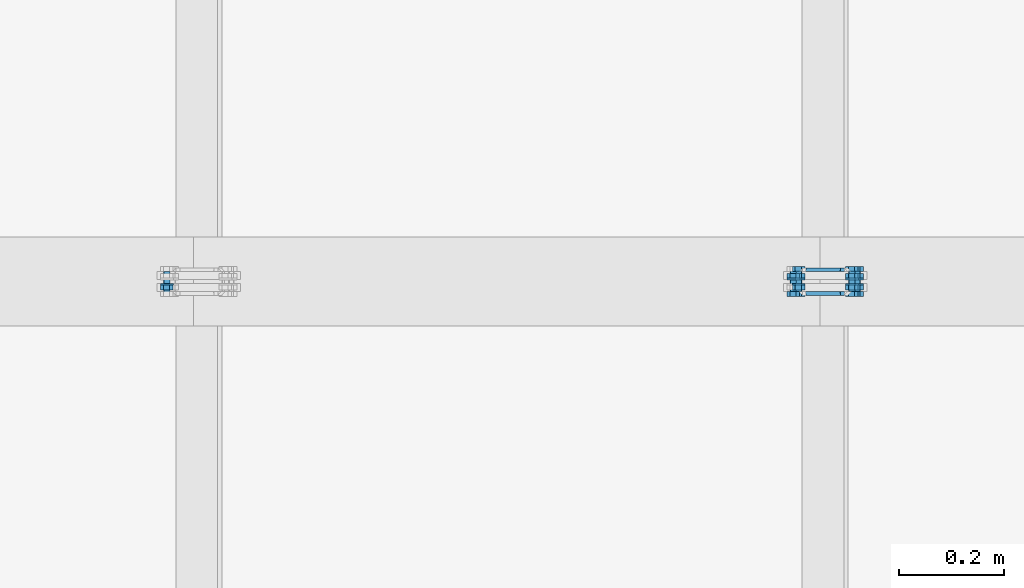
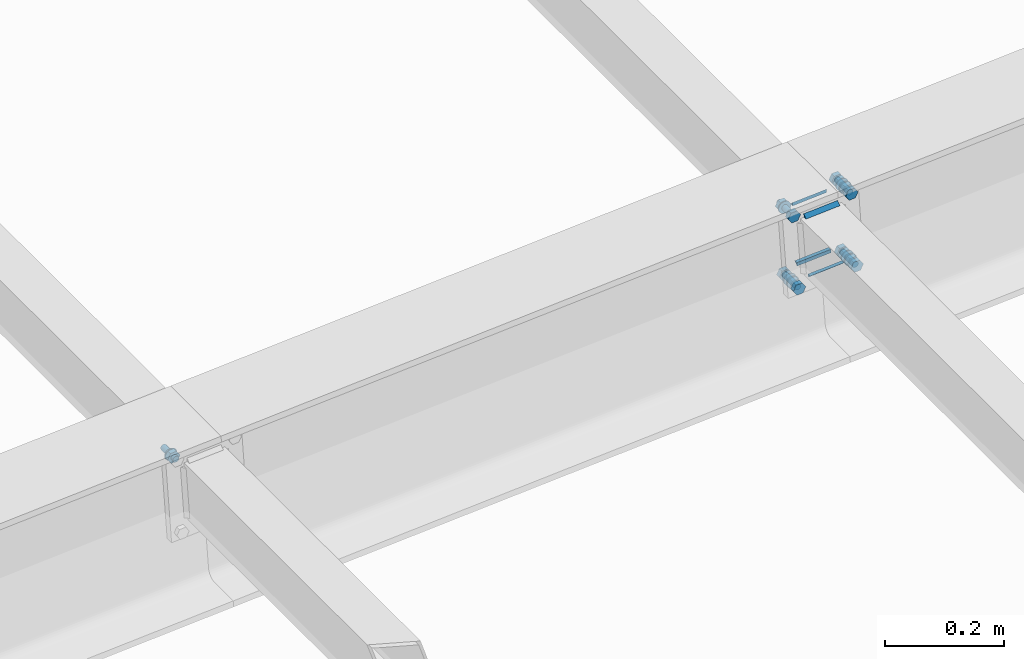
# One storey, part 60 of 72: 31 mechanical fasteners, 8 fasteners.
"""IFC4 building model written with IfcOpenShell, lengths in metres."""

from ifc_helpers import new_model, si_unit, frame, origin_with_axes, place, context, project, spatial, polyline, outline, extrude, type_object, element, save


model = new_model("IFC4")

# Units and contexts
model_context = context("Model", 3, precision=1e-05, world=origin_with_axes())
ifc_project = project(units=[si_unit("LENGTHUNIT", "METRE"), si_unit("AREAUNIT", "SQUARE_METRE"), si_unit("VOLUMEUNIT", "CUBIC_METRE"), si_unit("MASSUNIT", "GRAM", prefix="KILO"), si_unit("TIMEUNIT", "SECOND"), si_unit("PLANEANGLEUNIT", "RADIAN"), si_unit("SOLIDANGLEUNIT", "STERADIAN"), si_unit("THERMODYNAMICTEMPERATUREUNIT", "DEGREE_CELSIUS")], contexts=[model_context])

# Site, building, storey
placement_1 = place(None, origin_with_axes())
site = spatial("IfcSite", under=ifc_project, at=placement_1, Name="Italia", CompositionType="ELEMENT")
building = spatial("IfcBuilding", under=site, at=placement_1, Name="Pensilina", CompositionType="ELEMENT")
storey = spatial("IfcBuildingStorey", under=building, at=placement_1, Name="Storey 0", CompositionType="ELEMENT", Elevation=0.0)

# Mechanical fasteners
mechanical_fastener_type_1 = type_object("IfcMechanicalFastenerType", Name="Collegamento 0404_0405", PredefinedType="BOLT")
placement_2 = place(placement_1, origin_with_axes())
mechanical_fastener_1_placement = place(placement_2, origin_with_axes())
element("IfcMechanicalFastener", 1, at=mechanical_fastener_1_placement, inside=storey, type_object=mechanical_fastener_type_1, Name="Collegamento 0404_0405", NominalDiameter=0.012, context=model_context, shape_type="SweptSolid", body=[
    extrude(outline(polyline([(0.0, 0.0, 0.0), (-0.000204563, -0.00155282, 0.0), (-0.000803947, -0.00300002, 0.0), (-0.00175738, -0.00424266, 0.0), (-0.00300002, -0.00519609, 0.0), (-0.00444722, -0.00579548, 0.0), (-0.00600004, -0.00600004, 0.0), (-0.00755286, -0.00579548, 0.0), (-0.00900006, -0.00519609, 0.0), (-0.0102427, -0.00424266, 0.0), (-0.0111961, -0.00300002, 0.0), (-0.0117955, -0.00155282, 0.0), (-0.0120001, 0.0, 0.0), (-0.0117955, 0.00155282, 0.0), (-0.0111961, 0.00300002, 0.0), (-0.0102427, 0.00424266, 0.0), (-0.00900006, 0.00519609, 0.0), (-0.00755286, 0.00579548, 0.0), (-0.00600004, 0.00600004, 0.0), (-0.00444722, 0.00579548, 0.0), (-0.00300002, 0.00519609, 0.0), (-0.00175738, 0.00424266, 0.0), (-0.000803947, 0.00300002, 0.0), (-0.000204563, 0.00155282, 0.0), (0.0, 0.0, 0.0)])), frame((3.34841, 15.818, 3.93313), z_axis=(0.0, 1.0, 0.0), x_axis=(-1.0, 0.0, 0.0)), (0.0, 0.0, 1.0), 0.0410004),
])
mechanical_fastener_type_2 = type_object("IfcMechanicalFastenerType", Name="Collegamento 0404_0405", PredefinedType="BOLT")
mechanical_fastener_2_placement = place(placement_2, origin_with_axes())
element("IfcMechanicalFastener", 2, at=mechanical_fastener_2_placement, inside=storey, type_object=mechanical_fastener_type_2, Name="Collegamento 0404_0405", NominalDiameter=0.0119998, context=model_context, shape_type="SweptSolid", body=[
    extrude(outline(polyline([(0.0, 0.0, 0.0), (-0.0119729, 0.000808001, 0.0), (-0.0172596, 0.0115805, 0.0), (-0.0105736, 0.0215454, 0.0), (0.00139904, 0.0207376, 0.0), (0.00668597, 0.00996494, 0.0), (0.0, 0.0, 0.0)])), frame((3.34912, 15.8244, 3.92236), z_axis=(0.0, 1.0, 0.0), x_axis=(-1.0, 0.0, 0.0)), (0.0, 0.0, 1.0), 0.00959969),
])
mechanical_fastener_type_3 = type_object("IfcMechanicalFastenerType", Name="Collegamento 0404_0405", PredefinedType="BOLT")
mechanical_fastener_3_placement = place(placement_2, origin_with_axes())
element("IfcMechanicalFastener", 3, at=mechanical_fastener_3_placement, inside=storey, type_object=mechanical_fastener_type_3, Name="Collegamento 0404_0405", NominalDiameter=0.024, context=model_context, shape_type="SweptSolid", body=[
    extrude(outline(polyline([(0.0, 0.0, 0.0), (-0.000408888, -0.00310588, 0.0), (-0.00160789, -0.00600004, 0.0), (-0.00351477, -0.00848532, 0.0), (-0.00600004, -0.0103922, 0.0), (-0.00889421, -0.0115912, 0.0), (-0.0120001, -0.0120001, 0.0), (-0.015106, -0.0115912, 0.0), (-0.0180001, -0.0103922, 0.0), (-0.0204854, -0.00848532, 0.0), (-0.0223923, -0.00600004, 0.0), (-0.0235913, -0.00310588, 0.0), (-0.0240002, 0.0, 0.0), (-0.0235913, 0.00310588, 0.0), (-0.0223923, 0.00600004, 0.0), (-0.0204854, 0.00848532, 0.0), (-0.0180001, 0.0103922, 0.0), (-0.015106, 0.0115912, 0.0), (-0.0120001, 0.0120001, 0.0), (-0.00889421, 0.0115912, 0.0), (-0.00600004, 0.0103922, 0.0), (-0.00351477, 0.00848532, 0.0), (-0.00160789, 0.00600004, 0.0), (-0.000408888, 0.00310588, 0.0), (0.0, 0.0, 0.0)])), frame((3.34241, 15.834, 3.93313), z_axis=(0.0, 1.0, 0.0), x_axis=(-1.0, 0.0, 0.0)), (0.0, 0.0, 1.0), 0.00199986),
])

# Fasteners
fastener_type_1 = type_object("IfcFastenerType", Name="Collegamento 0504_0503", PredefinedType="WELD")
fastener_1_placement = place(placement_2, origin_with_axes())
element("IfcFastener", 4, at=fastener_1_placement, inside=storey, type_object=fastener_type_1, Name="Collegamento 0504_0503", context=model_context, shape_type="SweptSolid", body=[
    extrude(outline(polyline([(0.0, 0.0, 0.0), (0.00717354, -0.00695872, 0.0), (0.0, -0.00695872, 0.0), (0.0, 0.0, 0.0)])), frame((4.64108, 15.8211, 4.01231), z_axis=(-0.997731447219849, 0.0, -0.06731953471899), x_axis=(0.0, -1.0, 0.0)), (0.0, 0.0, 1.0), 0.0661003),
])
fastener_type_2 = type_object("IfcFastenerType", Name="Collegamento 0504_0503", PredefinedType="WELD")
fastener_2_placement = place(placement_2, origin_with_axes())
element("IfcFastener", 5, at=fastener_2_placement, inside=storey, type_object=fastener_type_2, Name="Collegamento 0504_0503", context=model_context, shape_type="SweptSolid", body=[
    extrude(outline(polyline([(0.0, 0.0, 0.0), (-0.00717354, 0.00695825, 0.0), (0.0, 0.00695825, 0.0), (0.0, 0.0, 0.0)])), frame((4.58414, 15.8211, 3.87435), z_axis=(0.99773120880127, 0.0, 0.067323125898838), x_axis=(0.0, 1.0, 0.0)), (0.0, 0.0, 1.0), 0.0661004),
])
fastener_type_3 = type_object("IfcFastenerType", Name="Collegamento 0504_0503", PredefinedType="WELD")
fastener_3_placement = place(placement_2, origin_with_axes())
element("IfcFastener", 6, at=fastener_3_placement, inside=storey, type_object=fastener_type_3, Name="Collegamento 0504_0503", context=model_context, shape_type="SweptSolid", body=[
    extrude(outline(polyline([(0.0, 0.0, 0.0), (0.00717354, -0.00695872, 0.0), (0.0, -0.00695872, 0.0), (0.0, 0.0, 0.0)])), frame((4.64108, 15.8211, 4.01231), z_axis=(-0.997731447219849, 0.0, -0.06731953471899), x_axis=(0.0, -1.0, 0.0)), (0.0, 0.0, 1.0), 0.0661003),
])
fastener_type_4 = type_object("IfcFastenerType", Name="Collegamento 0504_0503", PredefinedType="WELD")
fastener_4_placement = place(placement_2, origin_with_axes())
element("IfcFastener", 7, at=fastener_4_placement, inside=storey, type_object=fastener_type_4, Name="Collegamento 0504_0503", context=model_context, shape_type="SweptSolid", body=[
    extrude(outline(polyline([(0.0, 0.0, 0.0), (-0.00717354, 0.00695825, 0.0), (0.0, 0.00695825, 0.0), (0.0, 0.0, 0.0)])), frame((4.58414, 15.8211, 3.87435), z_axis=(0.99773120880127, 0.0, 0.067323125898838), x_axis=(0.0, 1.0, 0.0)), (0.0, 0.0, 1.0), 0.0661004),
])

# Mechanical fasteners
mechanical_fastener_type_4 = type_object("IfcMechanicalFastenerType", Name="Collegamento 0504_0503", PredefinedType="BOLT")
mechanical_fastener_4_placement = place(placement_2, origin_with_axes())
element("IfcMechanicalFastener", 8, at=mechanical_fastener_4_placement, inside=storey, type_object=mechanical_fastener_type_4, Name="Collegamento 0504_0503", NominalDiameter=0.0119998, context=model_context, shape_type="SweptSolid", body=[
    extrude(outline(polyline([(0.0, 0.0, 0.0), (-0.0119729, -0.000808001, 0.0), (-0.0186586, 0.00915694, 0.0), (-0.0133719, 0.0199296, 0.0), (-0.00139904, 0.0207374, 0.0), (0.00528669, 0.0107725, 0.0), (0.0, 0.0, 0.0)])), frame((4.56854, 15.821, 3.85377), z_axis=(0.0, -1.0, 0.0), x_axis=(1.0, 0.0, 0.0)), (0.0, 0.0, 1.0), 0.00959969),
])
mechanical_fastener_type_5 = type_object("IfcMechanicalFastenerType", Name="Collegamento 0504_0503", PredefinedType="BOLT")
mechanical_fastener_5_placement = place(placement_2, origin_with_axes())
element("IfcMechanicalFastener", 9, at=mechanical_fastener_5_placement, inside=storey, type_object=mechanical_fastener_type_5, Name="Collegamento 0504_0503", NominalDiameter=0.012, context=model_context, shape_type="SweptSolid", body=[
    extrude(outline(polyline([(0.0, 0.0, 0.0), (-0.000204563, -0.00155282, 0.0), (-0.000803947, -0.00300002, 0.0), (-0.00175762, -0.00424266, 0.0), (-0.00300026, -0.00519609, 0.0), (-0.00444698, -0.00579548, 0.0), (-0.00600004, -0.00600004, 0.0), (-0.0075531, -0.00579548, 0.0), (-0.00899982, -0.00519609, 0.0), (-0.0102425, -0.00424266, 0.0), (-0.0111961, -0.00300002, 0.0), (-0.0117955, -0.00155282, 0.0), (-0.0120001, 0.0, 0.0), (-0.0117955, 0.00155282, 0.0), (-0.0111961, 0.00300002, 0.0), (-0.0102425, 0.00424266, 0.0), (-0.00899982, 0.00519609, 0.0), (-0.0075531, 0.00579548, 0.0), (-0.00600004, 0.00600004, 0.0), (-0.00444698, 0.00579548, 0.0), (-0.00300026, 0.00519609, 0.0), (-0.00175762, 0.00424266, 0.0), (-0.000803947, 0.00300002, 0.0), (-0.000204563, 0.00155282, 0.0), (0.0, 0.0, 0.0)])), frame((4.56785, 15.862, 3.86373), z_axis=(0.0, -1.0, 0.0), x_axis=(1.0, 0.0, 0.0)), (0.0, 0.0, 1.0), 0.0410004),
])
mechanical_fastener_type_6 = type_object("IfcMechanicalFastenerType", Name="Collegamento 0504_0503", PredefinedType="BOLT")
mechanical_fastener_6_placement = place(placement_2, origin_with_axes())
element("IfcMechanicalFastener", 10, at=mechanical_fastener_6_placement, inside=storey, type_object=mechanical_fastener_type_6, Name="Collegamento 0504_0503", NominalDiameter=0.0119998, context=model_context, shape_type="SweptSolid", body=[
    extrude(outline(polyline([(0.0, 0.0, 0.0), (-0.0119729, -0.000808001, 0.0), (-0.0186586, 0.00915694, 0.0), (-0.0133719, 0.0199296, 0.0), (-0.00139904, 0.0207374, 0.0), (0.00528669, 0.0107725, 0.0), (0.0, 0.0, 0.0)])), frame((4.56854, 15.8556, 3.85377), z_axis=(0.0, -1.0, 0.0), x_axis=(1.0, 0.0, 0.0)), (0.0, 0.0, 1.0), 0.00959969),
])
mechanical_fastener_type_7 = type_object("IfcMechanicalFastenerType", Name="Collegamento 0504_0503", PredefinedType="BOLT")
mechanical_fastener_7_placement = place(placement_2, origin_with_axes())
element("IfcMechanicalFastener", 11, at=mechanical_fastener_7_placement, inside=storey, type_object=mechanical_fastener_type_7, Name="Collegamento 0504_0503", NominalDiameter=0.024, context=model_context, shape_type="SweptSolid", body=[
    extrude(outline(polyline([(0.0, 0.0, 0.0), (-0.000409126, -0.00310588, 0.0), (-0.00160789, -0.00600004, 0.0), (-0.00351477, -0.00848532, 0.0), (-0.00600004, -0.0103922, 0.0), (-0.00889444, -0.0115912, 0.0), (-0.0120001, -0.0120001, 0.0), (-0.0151057, -0.0115912, 0.0), (-0.0180001, -0.0103922, 0.0), (-0.0204854, -0.00848532, 0.0), (-0.0223923, -0.00600004, 0.0), (-0.023591, -0.00310588, 0.0), (-0.0240002, 0.0, 0.0), (-0.023591, 0.00310588, 0.0), (-0.0223923, 0.00600004, 0.0), (-0.0204854, 0.00848532, 0.0), (-0.0180001, 0.0103922, 0.0), (-0.0151057, 0.0115912, 0.0), (-0.0120001, 0.0120001, 0.0), (-0.00889444, 0.0115912, 0.0), (-0.00600004, 0.0103922, 0.0), (-0.00351477, 0.00848532, 0.0), (-0.00160789, 0.00600004, 0.0), (-0.000409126, 0.00310588, 0.0), (0.0, 0.0, 0.0)])), frame((4.57385, 15.846, 3.86373), z_axis=(0.0, -1.0, 0.0), x_axis=(1.0, 0.0, 0.0)), (0.0, 0.0, 1.0), 0.00199986),
])
mechanical_fastener_type_8 = type_object("IfcMechanicalFastenerType", Name="Collegamento 0504_0503", PredefinedType="BOLT")
mechanical_fastener_8_placement = place(placement_2, origin_with_axes())
element("IfcMechanicalFastener", 12, at=mechanical_fastener_8_placement, inside=storey, type_object=mechanical_fastener_type_8, Name="Collegamento 0504_0503", NominalDiameter=0.0119998, context=model_context, shape_type="SweptSolid", body=[
    extrude(outline(polyline([(0.0, 0.0, 0.0), (-0.0119729, -0.000807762, 0.0), (-0.0186586, 0.00915718, 0.0), (-0.0133719, 0.0199296, 0.0), (-0.00139904, 0.0207376, 0.0), (0.00528669, 0.0107727, 0.0), (0.0, 0.0, 0.0)])), frame((4.68028, 15.821, 3.8613), z_axis=(0.0, -1.0, 0.0), x_axis=(1.0, 0.0, 0.0)), (0.0, 0.0, 1.0), 0.00959969),
])
mechanical_fastener_type_9 = type_object("IfcMechanicalFastenerType", Name="Collegamento 0504_0503", PredefinedType="BOLT")
mechanical_fastener_9_placement = place(placement_2, origin_with_axes())
element("IfcMechanicalFastener", 13, at=mechanical_fastener_9_placement, inside=storey, type_object=mechanical_fastener_type_9, Name="Collegamento 0504_0503", NominalDiameter=0.012, context=model_context, shape_type="SweptSolid", body=[
    extrude(outline(polyline([(0.0, 0.0, 0.0), (-0.000204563, -0.00155282, 0.0), (-0.000803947, -0.00300002, 0.0), (-0.00175762, -0.00424266, 0.0), (-0.00300026, -0.00519609, 0.0), (-0.00444698, -0.00579548, 0.0), (-0.00600004, -0.00600004, 0.0), (-0.0075531, -0.00579548, 0.0), (-0.00899982, -0.00519609, 0.0), (-0.0102425, -0.00424266, 0.0), (-0.0111961, -0.00300002, 0.0), (-0.0117955, -0.00155282, 0.0), (-0.0120001, 0.0, 0.0), (-0.0117955, 0.00155282, 0.0), (-0.0111961, 0.00300002, 0.0), (-0.0102425, 0.00424266, 0.0), (-0.00899982, 0.00519609, 0.0), (-0.0075531, 0.00579548, 0.0), (-0.00600004, 0.00600004, 0.0), (-0.00444698, 0.00579548, 0.0), (-0.00300026, 0.00519609, 0.0), (-0.00175762, 0.00424266, 0.0), (-0.000803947, 0.00300002, 0.0), (-0.000204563, 0.00155282, 0.0), (0.0, 0.0, 0.0)])), frame((4.6796, 15.862, 3.87127), z_axis=(0.0, -1.0, 0.0), x_axis=(1.0, 0.0, 0.0)), (0.0, 0.0, 1.0), 0.0410004),
])
mechanical_fastener_type_10 = type_object("IfcMechanicalFastenerType", Name="Collegamento 0504_0503", PredefinedType="BOLT")
mechanical_fastener_10_placement = place(placement_2, origin_with_axes())
element("IfcMechanicalFastener", 14, at=mechanical_fastener_10_placement, inside=storey, type_object=mechanical_fastener_type_10, Name="Collegamento 0504_0503", NominalDiameter=0.0119998, context=model_context, shape_type="SweptSolid", body=[
    extrude(outline(polyline([(0.0, 0.0, 0.0), (-0.0119729, -0.000807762, 0.0), (-0.0186586, 0.00915718, 0.0), (-0.0133719, 0.0199296, 0.0), (-0.00139904, 0.0207376, 0.0), (0.00528669, 0.0107727, 0.0), (0.0, 0.0, 0.0)])), frame((4.68028, 15.8556, 3.8613), z_axis=(0.0, -1.0, 0.0), x_axis=(1.0, 0.0, 0.0)), (0.0, 0.0, 1.0), 0.00959969),
])
mechanical_fastener_type_11 = type_object("IfcMechanicalFastenerType", Name="Collegamento 0504_0503", PredefinedType="BOLT")
mechanical_fastener_11_placement = place(placement_2, origin_with_axes())
element("IfcMechanicalFastener", 15, at=mechanical_fastener_11_placement, inside=storey, type_object=mechanical_fastener_type_11, Name="Collegamento 0504_0503", NominalDiameter=0.024, context=model_context, shape_type="SweptSolid", body=[
    extrude(outline(polyline([(0.0, 0.0, 0.0), (-0.000409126, -0.00310588, 0.0), (-0.00160789, -0.00600004, 0.0), (-0.00351477, -0.00848532, 0.0), (-0.00600004, -0.0103922, 0.0), (-0.00889444, -0.0115912, 0.0), (-0.0120001, -0.0120001, 0.0), (-0.0151057, -0.0115912, 0.0), (-0.0180001, -0.0103922, 0.0), (-0.0204854, -0.00848532, 0.0), (-0.0223923, -0.00600004, 0.0), (-0.023591, -0.00310588, 0.0), (-0.0240002, 0.0, 0.0), (-0.023591, 0.00310588, 0.0), (-0.0223923, 0.00600004, 0.0), (-0.0204854, 0.00848532, 0.0), (-0.0180001, 0.0103922, 0.0), (-0.0151057, 0.0115912, 0.0), (-0.0120001, 0.0120001, 0.0), (-0.00889444, 0.0115912, 0.0), (-0.00600004, 0.0103922, 0.0), (-0.00351477, 0.00848532, 0.0), (-0.00160789, 0.00600004, 0.0), (-0.000409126, 0.00310588, 0.0), (0.0, 0.0, 0.0)])), frame((4.6856, 15.846, 3.87127), z_axis=(0.0, -1.0, 0.0), x_axis=(1.0, 0.0, 0.0)), (0.0, 0.0, 1.0), 0.00199986),
])
mechanical_fastener_type_12 = type_object("IfcMechanicalFastenerType", Name="Collegamento 0504_0503", PredefinedType="BOLT")
mechanical_fastener_12_placement = place(placement_2, origin_with_axes())
element("IfcMechanicalFastener", 16, at=mechanical_fastener_12_placement, inside=storey, type_object=mechanical_fastener_type_12, Name="Collegamento 0504_0503", NominalDiameter=0.012, context=model_context, shape_type="SweptSolid", body=[
    extrude(outline(polyline([(0.0, 0.0, 0.0), (-0.0119729, -0.000807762, 0.0), (-0.0186586, 0.00915718, 0.0), (-0.0133719, 0.0199299, 0.0), (-0.00139904, 0.0207376, 0.0), (0.00528669, 0.0107727, 0.0), (0.0, 0.0, 0.0)])), frame((4.5583, 15.821, 4.00542), z_axis=(0.0, -1.0, 0.0), x_axis=(1.0, 0.0, 0.0)), (0.0, 0.0, 1.0), 0.00959969),
])
mechanical_fastener_type_13 = type_object("IfcMechanicalFastenerType", Name="Collegamento 0504_0503", PredefinedType="BOLT")
mechanical_fastener_13_placement = place(placement_2, origin_with_axes())
element("IfcMechanicalFastener", 17, at=mechanical_fastener_13_placement, inside=storey, type_object=mechanical_fastener_type_13, Name="Collegamento 0504_0503", NominalDiameter=0.012, context=model_context, shape_type="SweptSolid", body=[
    extrude(outline(polyline([(0.0, 0.0, 0.0), (-0.000204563, -0.00155306, 0.0), (-0.000803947, -0.00299978, 0.0), (-0.00175762, -0.00424242, 0.0), (-0.00300026, -0.00519609, 0.0), (-0.00444698, -0.00579548, 0.0), (-0.00600004, -0.00600004, 0.0), (-0.0075531, -0.00579548, 0.0), (-0.00899982, -0.00519609, 0.0), (-0.0102425, -0.00424242, 0.0), (-0.0111961, -0.00299978, 0.0), (-0.0117955, -0.00155306, 0.0), (-0.0120001, 0.0, 0.0), (-0.0117955, 0.00155306, 0.0), (-0.0111961, 0.00299978, 0.0), (-0.0102425, 0.00424242, 0.0), (-0.00899982, 0.00519609, 0.0), (-0.0075531, 0.00579548, 0.0), (-0.00600004, 0.00600004, 0.0), (-0.00444698, 0.00579548, 0.0), (-0.00300026, 0.00519609, 0.0), (-0.00175762, 0.00424242, 0.0), (-0.000803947, 0.00299978, 0.0), (-0.000204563, 0.00155306, 0.0), (0.0, 0.0, 0.0)])), frame((4.55762, 15.862, 4.01539), z_axis=(0.0, -1.0, 0.0), x_axis=(1.0, 0.0, 0.0)), (0.0, 0.0, 1.0), 0.0410004),
])
mechanical_fastener_type_14 = type_object("IfcMechanicalFastenerType", Name="Collegamento 0504_0503", PredefinedType="BOLT")
mechanical_fastener_14_placement = place(placement_2, origin_with_axes())
element("IfcMechanicalFastener", 18, at=mechanical_fastener_14_placement, inside=storey, type_object=mechanical_fastener_type_14, Name="Collegamento 0504_0503", NominalDiameter=0.012, context=model_context, shape_type="SweptSolid", body=[
    extrude(outline(polyline([(0.0, 0.0, 0.0), (-0.0119729, -0.000807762, 0.0), (-0.0186586, 0.00915718, 0.0), (-0.0133719, 0.0199299, 0.0), (-0.00139904, 0.0207376, 0.0), (0.00528669, 0.0107727, 0.0), (0.0, 0.0, 0.0)])), frame((4.5583, 15.8556, 4.00542), z_axis=(0.0, -1.0, 0.0), x_axis=(1.0, 0.0, 0.0)), (0.0, 0.0, 1.0), 0.00959969),
])
mechanical_fastener_type_15 = type_object("IfcMechanicalFastenerType", Name="Collegamento 0504_0503", PredefinedType="BOLT")
mechanical_fastener_15_placement = place(placement_2, origin_with_axes())
element("IfcMechanicalFastener", 19, at=mechanical_fastener_15_placement, inside=storey, type_object=mechanical_fastener_type_15, Name="Collegamento 0504_0503", NominalDiameter=0.024, context=model_context, shape_type="SweptSolid", body=[
    extrude(outline(polyline([(0.0, 0.0, 0.0), (-0.000409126, -0.00310564, 0.0), (-0.00160789, -0.00600004, 0.0), (-0.00351477, -0.00848532, 0.0), (-0.00600004, -0.0103922, 0.0), (-0.00889444, -0.011591, 0.0), (-0.0120001, -0.0120001, 0.0), (-0.0151057, -0.011591, 0.0), (-0.0180001, -0.0103922, 0.0), (-0.0204854, -0.00848532, 0.0), (-0.0223923, -0.00600004, 0.0), (-0.023591, -0.00310564, 0.0), (-0.0240002, 0.0, 0.0), (-0.023591, 0.00310564, 0.0), (-0.0223923, 0.00600004, 0.0), (-0.0204854, 0.00848532, 0.0), (-0.0180001, 0.0103922, 0.0), (-0.0151057, 0.011591, 0.0), (-0.0120001, 0.0120001, 0.0), (-0.00889444, 0.011591, 0.0), (-0.00600004, 0.0103922, 0.0), (-0.00351477, 0.00848532, 0.0), (-0.00160789, 0.00600004, 0.0), (-0.000409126, 0.00310564, 0.0), (0.0, 0.0, 0.0)])), frame((4.56362, 15.846, 4.01539), z_axis=(0.0, -1.0, 0.0), x_axis=(1.0, 0.0, 0.0)), (0.0, 0.0, 1.0), 0.00199986),
])
mechanical_fastener_type_16 = type_object("IfcMechanicalFastenerType", Name="Collegamento 0504_0503", PredefinedType="BOLT")
mechanical_fastener_16_placement = place(placement_2, origin_with_axes())
element("IfcMechanicalFastener", 20, at=mechanical_fastener_16_placement, inside=storey, type_object=mechanical_fastener_type_16, Name="Collegamento 0504_0503", NominalDiameter=0.012, context=model_context, shape_type="SweptSolid", body=[
    extrude(outline(polyline([(0.0, 0.0, 0.0), (-0.0119729, -0.000807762, 0.0), (-0.0186586, 0.00915718, 0.0), (-0.0133719, 0.0199299, 0.0), (-0.00139904, 0.0207376, 0.0), (0.00528669, 0.0107727, 0.0), (0.0, 0.0, 0.0)])), frame((4.67005, 15.821, 4.01296), z_axis=(0.0, -1.0, 0.0), x_axis=(1.0, 0.0, 0.0)), (0.0, 0.0, 1.0), 0.00959969),
])
mechanical_fastener_type_17 = type_object("IfcMechanicalFastenerType", Name="Collegamento 0504_0503", PredefinedType="BOLT")
mechanical_fastener_17_placement = place(placement_2, origin_with_axes())
element("IfcMechanicalFastener", 21, at=mechanical_fastener_17_placement, inside=storey, type_object=mechanical_fastener_type_17, Name="Collegamento 0504_0503", NominalDiameter=0.012, context=model_context, shape_type="SweptSolid", body=[
    extrude(outline(polyline([(0.0, 0.0, 0.0), (-0.000204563, -0.00155306, 0.0), (-0.000803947, -0.00299978, 0.0), (-0.00175762, -0.00424242, 0.0), (-0.00300026, -0.00519609, 0.0), (-0.00444698, -0.00579548, 0.0), (-0.00600004, -0.00600004, 0.0), (-0.0075531, -0.00579548, 0.0), (-0.00899982, -0.00519609, 0.0), (-0.0102425, -0.00424242, 0.0), (-0.0111961, -0.00299978, 0.0), (-0.0117955, -0.00155306, 0.0), (-0.0120001, 0.0, 0.0), (-0.0117955, 0.00155306, 0.0), (-0.0111961, 0.00299978, 0.0), (-0.0102425, 0.00424242, 0.0), (-0.00899982, 0.00519609, 0.0), (-0.0075531, 0.00579548, 0.0), (-0.00600004, 0.00600004, 0.0), (-0.00444698, 0.00579548, 0.0), (-0.00300026, 0.00519609, 0.0), (-0.00175762, 0.00424242, 0.0), (-0.000803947, 0.00299978, 0.0), (-0.000204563, 0.00155306, 0.0), (0.0, 0.0, 0.0)])), frame((4.66936, 15.862, 4.02292), z_axis=(0.0, -1.0, 0.0), x_axis=(1.0, 0.0, 0.0)), (0.0, 0.0, 1.0), 0.0410004),
])
mechanical_fastener_type_18 = type_object("IfcMechanicalFastenerType", Name="Collegamento 0504_0503", PredefinedType="BOLT")
mechanical_fastener_18_placement = place(placement_2, origin_with_axes())
element("IfcMechanicalFastener", 22, at=mechanical_fastener_18_placement, inside=storey, type_object=mechanical_fastener_type_18, Name="Collegamento 0504_0503", NominalDiameter=0.012, context=model_context, shape_type="SweptSolid", body=[
    extrude(outline(polyline([(0.0, 0.0, 0.0), (-0.0119729, -0.000807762, 0.0), (-0.0186586, 0.00915718, 0.0), (-0.0133719, 0.0199299, 0.0), (-0.00139904, 0.0207376, 0.0), (0.00528669, 0.0107727, 0.0), (0.0, 0.0, 0.0)])), frame((4.67005, 15.8556, 4.01296), z_axis=(0.0, -1.0, 0.0), x_axis=(1.0, 0.0, 0.0)), (0.0, 0.0, 1.0), 0.00959969),
])
mechanical_fastener_type_19 = type_object("IfcMechanicalFastenerType", Name="Collegamento 0504_0503", PredefinedType="BOLT")
mechanical_fastener_19_placement = place(placement_2, origin_with_axes())
element("IfcMechanicalFastener", 23, at=mechanical_fastener_19_placement, inside=storey, type_object=mechanical_fastener_type_19, Name="Collegamento 0504_0503", NominalDiameter=0.024, context=model_context, shape_type="SweptSolid", body=[
    extrude(outline(polyline([(0.0, 0.0, 0.0), (-0.000409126, -0.00310564, 0.0), (-0.00160789, -0.00600004, 0.0), (-0.00351477, -0.00848532, 0.0), (-0.00600004, -0.0103922, 0.0), (-0.00889444, -0.011591, 0.0), (-0.0120001, -0.0120001, 0.0), (-0.0151057, -0.011591, 0.0), (-0.0180001, -0.0103922, 0.0), (-0.0204854, -0.00848532, 0.0), (-0.0223923, -0.00600004, 0.0), (-0.023591, -0.00310564, 0.0), (-0.0240002, 0.0, 0.0), (-0.023591, 0.00310564, 0.0), (-0.0223923, 0.00600004, 0.0), (-0.0204854, 0.00848532, 0.0), (-0.0180001, 0.0103922, 0.0), (-0.0151057, 0.011591, 0.0), (-0.0120001, 0.0120001, 0.0), (-0.00889444, 0.011591, 0.0), (-0.00600004, 0.0103922, 0.0), (-0.00351477, 0.00848532, 0.0), (-0.00160789, 0.00600004, 0.0), (-0.000409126, 0.00310564, 0.0), (0.0, 0.0, 0.0)])), frame((4.67536, 15.846, 4.02292), z_axis=(0.0, -1.0, 0.0), x_axis=(1.0, 0.0, 0.0)), (0.0, 0.0, 1.0), 0.00199986),
])

# Fasteners
fastener_type_5 = type_object("IfcFastenerType", Name="Collegamento 0504_0505", PredefinedType="WELD")
fastener_5_placement = place(placement_2, origin_with_axes())
element("IfcFastener", 24, at=fastener_5_placement, inside=storey, type_object=fastener_type_5, Name="Collegamento 0504_0505", context=model_context, shape_type="SweptSolid", body=[
    extrude(outline(polyline([(0.0, 0.0, 0.0), (0.00717354, -0.00695825, 0.0), (0.0, -0.00695825, 0.0), (0.0, 0.0, 0.0)])), frame((4.57513, 15.8589, 4.00786), z_axis=(0.997731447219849, 0.0, 0.06731953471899), x_axis=(0.0, 1.0, 0.0)), (0.0, 0.0, 1.0), 0.0661003),
])
fastener_type_6 = type_object("IfcFastenerType", Name="Collegamento 0504_0505", PredefinedType="WELD")
fastener_6_placement = place(placement_2, origin_with_axes())
element("IfcFastener", 25, at=fastener_6_placement, inside=storey, type_object=fastener_type_6, Name="Collegamento 0504_0505", context=model_context, shape_type="SweptSolid", body=[
    extrude(outline(polyline([(0.0, 0.0, 0.0), (-0.00717354, 0.00695848, 0.0), (0.0, 0.00695848, 0.0), (0.0, 0.0, 0.0)])), frame((4.65009, 15.8589, 3.8788), z_axis=(-0.997731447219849, 0.0, -0.06731953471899), x_axis=(0.0, -1.0, 0.0)), (0.0, 0.0, 1.0), 0.0661003),
])
fastener_type_7 = type_object("IfcFastenerType", Name="Collegamento 0504_0505", PredefinedType="WELD")
fastener_7_placement = place(placement_2, origin_with_axes())
element("IfcFastener", 26, at=fastener_7_placement, inside=storey, type_object=fastener_type_7, Name="Collegamento 0504_0505", context=model_context, shape_type="SweptSolid", body=[
    extrude(outline(polyline([(0.0, 0.0, 0.0), (0.00717354, -0.00695825, 0.0), (0.0, -0.00695825, 0.0), (0.0, 0.0, 0.0)])), frame((4.57513, 15.8589, 4.00786), z_axis=(0.997731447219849, 0.0, 0.06731953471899), x_axis=(0.0, 1.0, 0.0)), (0.0, 0.0, 1.0), 0.0661003),
])
fastener_type_8 = type_object("IfcFastenerType", Name="Collegamento 0504_0505", PredefinedType="WELD")
fastener_8_placement = place(placement_2, origin_with_axes())
element("IfcFastener", 27, at=fastener_8_placement, inside=storey, type_object=fastener_type_8, Name="Collegamento 0504_0505", context=model_context, shape_type="SweptSolid", body=[
    extrude(outline(polyline([(0.0, 0.0, 0.0), (-0.00717354, 0.00695848, 0.0), (0.0, 0.00695848, 0.0), (0.0, 0.0, 0.0)])), frame((4.65009, 15.8589, 3.8788), z_axis=(-0.997731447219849, 0.0, -0.06731953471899), x_axis=(0.0, -1.0, 0.0)), (0.0, 0.0, 1.0), 0.0661003),
])

# Mechanical fasteners
mechanical_fastener_type_20 = type_object("IfcMechanicalFastenerType", Name="Collegamento 0504_0505", PredefinedType="BOLT")
mechanical_fastener_20_placement = place(placement_2, origin_with_axes())
element("IfcMechanicalFastener", 28, at=mechanical_fastener_20_placement, inside=storey, type_object=mechanical_fastener_type_20, Name="Collegamento 0504_0505", NominalDiameter=0.0119998, context=model_context, shape_type="SweptSolid", body=[
    extrude(outline(polyline([(0.0, 0.0, 0.0), (-0.0119729, 0.000807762, 0.0), (-0.0172596, 0.0115805, 0.0), (-0.0105739, 0.0215454, 0.0), (0.00139904, 0.0207374, 0.0), (0.00668573, 0.00996494, 0.0), (0.0, 0.0, 0.0)])), frame((4.66831, 15.859, 3.8605), z_axis=(0.0, 1.0, 0.0), x_axis=(-1.0, 0.0, 0.0)), (0.0, 0.0, 1.0), 0.00959969),
])
mechanical_fastener_type_21 = type_object("IfcMechanicalFastenerType", Name="Collegamento 0504_0505", PredefinedType="BOLT")
mechanical_fastener_21_placement = place(placement_2, origin_with_axes())
element("IfcMechanicalFastener", 29, at=mechanical_fastener_21_placement, inside=storey, type_object=mechanical_fastener_type_21, Name="Collegamento 0504_0505", NominalDiameter=0.012, context=model_context, shape_type="SweptSolid", body=[
    extrude(outline(polyline([(0.0, 0.0, 0.0), (-0.000204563, -0.00155282, 0.0), (-0.000803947, -0.00300002, 0.0), (-0.00175762, -0.00424266, 0.0), (-0.00300026, -0.00519609, 0.0), (-0.00444698, -0.00579548, 0.0), (-0.00600004, -0.00600004, 0.0), (-0.0075531, -0.00579548, 0.0), (-0.00899982, -0.00519609, 0.0), (-0.0102425, -0.00424266, 0.0), (-0.0111961, -0.00300002, 0.0), (-0.0117955, -0.00155282, 0.0), (-0.0120001, 0.0, 0.0), (-0.0117955, 0.00155282, 0.0), (-0.0111961, 0.00300002, 0.0), (-0.0102425, 0.00424266, 0.0), (-0.00899982, 0.00519609, 0.0), (-0.0075531, 0.00579548, 0.0), (-0.00600004, 0.00600004, 0.0), (-0.00444698, 0.00579548, 0.0), (-0.00300026, 0.00519609, 0.0), (-0.00175762, 0.00424266, 0.0), (-0.000803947, 0.00300002, 0.0), (-0.000204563, 0.00155282, 0.0), (0.0, 0.0, 0.0)])), frame((4.6676, 15.818, 3.87127), z_axis=(0.0, 1.0, 0.0), x_axis=(-1.0, 0.0, 0.0)), (0.0, 0.0, 1.0), 0.0410004),
])
mechanical_fastener_type_22 = type_object("IfcMechanicalFastenerType", Name="Collegamento 0504_0505", PredefinedType="BOLT")
mechanical_fastener_22_placement = place(placement_2, origin_with_axes())
element("IfcMechanicalFastener", 30, at=mechanical_fastener_22_placement, inside=storey, type_object=mechanical_fastener_type_22, Name="Collegamento 0504_0505", NominalDiameter=0.0119998, context=model_context, shape_type="SweptSolid", body=[
    extrude(outline(polyline([(0.0, 0.0, 0.0), (-0.0119729, 0.000807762, 0.0), (-0.0172596, 0.0115805, 0.0), (-0.0105739, 0.0215454, 0.0), (0.00139904, 0.0207374, 0.0), (0.00668573, 0.00996494, 0.0), (0.0, 0.0, 0.0)])), frame((4.66831, 15.8244, 3.8605), z_axis=(0.0, 1.0, 0.0), x_axis=(-1.0, 0.0, 0.0)), (0.0, 0.0, 1.0), 0.00959969),
])
mechanical_fastener_type_23 = type_object("IfcMechanicalFastenerType", Name="Collegamento 0504_0505", PredefinedType="BOLT")
mechanical_fastener_23_placement = place(placement_2, origin_with_axes())
element("IfcMechanicalFastener", 31, at=mechanical_fastener_23_placement, inside=storey, type_object=mechanical_fastener_type_23, Name="Collegamento 0504_0505", NominalDiameter=0.024, context=model_context, shape_type="SweptSolid", body=[
    extrude(outline(polyline([(0.0, 0.0, 0.0), (-0.000409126, -0.00310588, 0.0), (-0.00160789, -0.00600004, 0.0), (-0.00351477, -0.00848532, 0.0), (-0.00600004, -0.0103922, 0.0), (-0.00889444, -0.0115912, 0.0), (-0.0120001, -0.0120001, 0.0), (-0.0151057, -0.0115912, 0.0), (-0.0180001, -0.0103922, 0.0), (-0.0204854, -0.00848532, 0.0), (-0.0223923, -0.00600004, 0.0), (-0.023591, -0.00310588, 0.0), (-0.0240002, 0.0, 0.0), (-0.023591, 0.00310588, 0.0), (-0.0223923, 0.00600004, 0.0), (-0.0204854, 0.00848532, 0.0), (-0.0180001, 0.0103922, 0.0), (-0.0151057, 0.0115912, 0.0), (-0.0120001, 0.0120001, 0.0), (-0.00889444, 0.0115912, 0.0), (-0.00600004, 0.0103922, 0.0), (-0.00351477, 0.00848532, 0.0), (-0.00160789, 0.00600004, 0.0), (-0.000409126, 0.00310588, 0.0), (0.0, 0.0, 0.0)])), frame((4.6616, 15.834, 3.87127), z_axis=(0.0, 1.0, 0.0), x_axis=(-1.0, 0.0, 0.0)), (0.0, 0.0, 1.0), 0.00199986),
])
mechanical_fastener_type_24 = type_object("IfcMechanicalFastenerType", Name="Collegamento 0504_0505", PredefinedType="BOLT")
mechanical_fastener_24_placement = place(placement_2, origin_with_axes())
element("IfcMechanicalFastener", 32, at=mechanical_fastener_24_placement, inside=storey, type_object=mechanical_fastener_type_24, Name="Collegamento 0504_0505", NominalDiameter=0.0119998, context=model_context, shape_type="SweptSolid", body=[
    extrude(outline(polyline([(0.0, 0.0, 0.0), (-0.0119729, 0.000808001, 0.0), (-0.0172596, 0.0115805, 0.0), (-0.0105739, 0.0215454, 0.0), (0.00139904, 0.0207376, 0.0), (0.00668573, 0.00996494, 0.0), (0.0, 0.0, 0.0)])), frame((4.55656, 15.859, 3.85296), z_axis=(0.0, 1.0, 0.0), x_axis=(-1.0, 0.0, 0.0)), (0.0, 0.0, 1.0), 0.00959969),
])
mechanical_fastener_type_25 = type_object("IfcMechanicalFastenerType", Name="Collegamento 0504_0505", PredefinedType="BOLT")
mechanical_fastener_25_placement = place(placement_2, origin_with_axes())
element("IfcMechanicalFastener", 33, at=mechanical_fastener_25_placement, inside=storey, type_object=mechanical_fastener_type_25, Name="Collegamento 0504_0505", NominalDiameter=0.012, context=model_context, shape_type="SweptSolid", body=[
    extrude(outline(polyline([(0.0, 0.0, 0.0), (-0.000204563, -0.00155282, 0.0), (-0.000803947, -0.00300002, 0.0), (-0.00175762, -0.00424266, 0.0), (-0.00300026, -0.00519609, 0.0), (-0.00444698, -0.00579548, 0.0), (-0.00600004, -0.00600004, 0.0), (-0.0075531, -0.00579548, 0.0), (-0.00899982, -0.00519609, 0.0), (-0.0102425, -0.00424266, 0.0), (-0.0111961, -0.00300002, 0.0), (-0.0117955, -0.00155282, 0.0), (-0.0120001, 0.0, 0.0), (-0.0117955, 0.00155282, 0.0), (-0.0111961, 0.00300002, 0.0), (-0.0102425, 0.00424266, 0.0), (-0.00899982, 0.00519609, 0.0), (-0.0075531, 0.00579548, 0.0), (-0.00600004, 0.00600004, 0.0), (-0.00444698, 0.00579548, 0.0), (-0.00300026, 0.00519609, 0.0), (-0.00175762, 0.00424266, 0.0), (-0.000803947, 0.00300002, 0.0), (-0.000204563, 0.00155282, 0.0), (0.0, 0.0, 0.0)])), frame((4.55585, 15.818, 3.86373), z_axis=(0.0, 1.0, 0.0), x_axis=(-1.0, 0.0, 0.0)), (0.0, 0.0, 1.0), 0.0410004),
])
mechanical_fastener_type_26 = type_object("IfcMechanicalFastenerType", Name="Collegamento 0504_0505", PredefinedType="BOLT")
mechanical_fastener_26_placement = place(placement_2, origin_with_axes())
element("IfcMechanicalFastener", 34, at=mechanical_fastener_26_placement, inside=storey, type_object=mechanical_fastener_type_26, Name="Collegamento 0504_0505", NominalDiameter=0.0119998, context=model_context, shape_type="SweptSolid", body=[
    extrude(outline(polyline([(0.0, 0.0, 0.0), (-0.0119729, 0.000808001, 0.0), (-0.0172596, 0.0115805, 0.0), (-0.0105739, 0.0215454, 0.0), (0.00139904, 0.0207376, 0.0), (0.00668573, 0.00996494, 0.0), (0.0, 0.0, 0.0)])), frame((4.55656, 15.8244, 3.85296), z_axis=(0.0, 1.0, 0.0), x_axis=(-1.0, 0.0, 0.0)), (0.0, 0.0, 1.0), 0.00959969),
])
mechanical_fastener_type_27 = type_object("IfcMechanicalFastenerType", Name="Collegamento 0504_0505", PredefinedType="BOLT")
mechanical_fastener_27_placement = place(placement_2, origin_with_axes())
element("IfcMechanicalFastener", 35, at=mechanical_fastener_27_placement, inside=storey, type_object=mechanical_fastener_type_27, Name="Collegamento 0504_0505", NominalDiameter=0.024, context=model_context, shape_type="SweptSolid", body=[
    extrude(outline(polyline([(0.0, 0.0, 0.0), (-0.000409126, -0.00310588, 0.0), (-0.00160789, -0.00600004, 0.0), (-0.00351477, -0.00848532, 0.0), (-0.00600004, -0.0103922, 0.0), (-0.00889444, -0.0115912, 0.0), (-0.0120001, -0.0120001, 0.0), (-0.0151057, -0.0115912, 0.0), (-0.0180001, -0.0103922, 0.0), (-0.0204854, -0.00848532, 0.0), (-0.0223923, -0.00600004, 0.0), (-0.023591, -0.00310588, 0.0), (-0.0240002, 0.0, 0.0), (-0.023591, 0.00310588, 0.0), (-0.0223923, 0.00600004, 0.0), (-0.0204854, 0.00848532, 0.0), (-0.0180001, 0.0103922, 0.0), (-0.0151057, 0.0115912, 0.0), (-0.0120001, 0.0120001, 0.0), (-0.00889444, 0.0115912, 0.0), (-0.00600004, 0.0103922, 0.0), (-0.00351477, 0.00848532, 0.0), (-0.00160789, 0.00600004, 0.0), (-0.000409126, 0.00310588, 0.0), (0.0, 0.0, 0.0)])), frame((4.54985, 15.834, 3.86373), z_axis=(0.0, 1.0, 0.0), x_axis=(-1.0, 0.0, 0.0)), (0.0, 0.0, 1.0), 0.00199986),
])
mechanical_fastener_type_28 = type_object("IfcMechanicalFastenerType", Name="Collegamento 0504_0505", PredefinedType="BOLT")
mechanical_fastener_28_placement = place(placement_2, origin_with_axes())
element("IfcMechanicalFastener", 36, at=mechanical_fastener_28_placement, inside=storey, type_object=mechanical_fastener_type_28, Name="Collegamento 0504_0505", NominalDiameter=0.012, context=model_context, shape_type="SweptSolid", body=[
    extrude(outline(polyline([(0.0, 0.0, 0.0), (-0.0119729, 0.000807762, 0.0), (-0.0172596, 0.0115805, 0.0), (-0.0105739, 0.0215454, 0.0), (0.00139904, 0.0207376, 0.0), (0.00668573, 0.00996494, 0.0), (0.0, 0.0, 0.0)])), frame((4.65808, 15.859, 4.01215), z_axis=(0.0, 1.0, 0.0), x_axis=(-1.0, 0.0, 0.0)), (0.0, 0.0, 1.0), 0.00959969),
])
mechanical_fastener_type_29 = type_object("IfcMechanicalFastenerType", Name="Collegamento 0504_0505", PredefinedType="BOLT")
mechanical_fastener_29_placement = place(placement_2, origin_with_axes())
element("IfcMechanicalFastener", 37, at=mechanical_fastener_29_placement, inside=storey, type_object=mechanical_fastener_type_29, Name="Collegamento 0504_0505", NominalDiameter=0.012, context=model_context, shape_type="SweptSolid", body=[
    extrude(outline(polyline([(0.0, 0.0, 0.0), (-0.000204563, -0.00155306, 0.0), (-0.000803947, -0.00299978, 0.0), (-0.00175762, -0.00424242, 0.0), (-0.00300026, -0.00519609, 0.0), (-0.00444698, -0.00579548, 0.0), (-0.00600004, -0.00600004, 0.0), (-0.0075531, -0.00579548, 0.0), (-0.00899982, -0.00519609, 0.0), (-0.0102425, -0.00424242, 0.0), (-0.0111961, -0.00299978, 0.0), (-0.0117955, -0.00155306, 0.0), (-0.0120001, 0.0, 0.0), (-0.0117955, 0.00155306, 0.0), (-0.0111961, 0.00299978, 0.0), (-0.0102425, 0.00424242, 0.0), (-0.00899982, 0.00519609, 0.0), (-0.0075531, 0.00579548, 0.0), (-0.00600004, 0.00600004, 0.0), (-0.00444698, 0.00579548, 0.0), (-0.00300026, 0.00519609, 0.0), (-0.00175762, 0.00424242, 0.0), (-0.000803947, 0.00299978, 0.0), (-0.000204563, 0.00155306, 0.0), (0.0, 0.0, 0.0)])), frame((4.65736, 15.818, 4.02292), z_axis=(0.0, 1.0, 0.0), x_axis=(-1.0, 0.0, 0.0)), (0.0, 0.0, 1.0), 0.0410004),
])
mechanical_fastener_type_30 = type_object("IfcMechanicalFastenerType", Name="Collegamento 0504_0505", PredefinedType="BOLT")
mechanical_fastener_30_placement = place(placement_2, origin_with_axes())
element("IfcMechanicalFastener", 38, at=mechanical_fastener_30_placement, inside=storey, type_object=mechanical_fastener_type_30, Name="Collegamento 0504_0505", NominalDiameter=0.012, context=model_context, shape_type="SweptSolid", body=[
    extrude(outline(polyline([(0.0, 0.0, 0.0), (-0.0119729, 0.000807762, 0.0), (-0.0172596, 0.0115805, 0.0), (-0.0105739, 0.0215454, 0.0), (0.00139904, 0.0207376, 0.0), (0.00668573, 0.00996494, 0.0), (0.0, 0.0, 0.0)])), frame((4.65808, 15.8244, 4.01215), z_axis=(0.0, 1.0, 0.0), x_axis=(-1.0, 0.0, 0.0)), (0.0, 0.0, 1.0), 0.00959969),
])
mechanical_fastener_type_31 = type_object("IfcMechanicalFastenerType", Name="Collegamento 0504_0505", PredefinedType="BOLT")
mechanical_fastener_31_placement = place(placement_2, origin_with_axes())
element("IfcMechanicalFastener", 39, at=mechanical_fastener_31_placement, inside=storey, type_object=mechanical_fastener_type_31, Name="Collegamento 0504_0505", NominalDiameter=0.024, context=model_context, shape_type="SweptSolid", body=[
    extrude(outline(polyline([(0.0, 0.0, 0.0), (-0.000409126, -0.00310564, 0.0), (-0.00160789, -0.00600004, 0.0), (-0.00351477, -0.00848532, 0.0), (-0.00600004, -0.0103922, 0.0), (-0.00889444, -0.011591, 0.0), (-0.0120001, -0.0120001, 0.0), (-0.0151057, -0.011591, 0.0), (-0.0180001, -0.0103922, 0.0), (-0.0204854, -0.00848532, 0.0), (-0.0223923, -0.00600004, 0.0), (-0.023591, -0.00310564, 0.0), (-0.0240002, 0.0, 0.0), (-0.023591, 0.00310564, 0.0), (-0.0223923, 0.00600004, 0.0), (-0.0204854, 0.00848532, 0.0), (-0.0180001, 0.0103922, 0.0), (-0.0151057, 0.011591, 0.0), (-0.0120001, 0.0120001, 0.0), (-0.00889444, 0.011591, 0.0), (-0.00600004, 0.0103922, 0.0), (-0.00351477, 0.00848532, 0.0), (-0.00160789, 0.00600004, 0.0), (-0.000409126, 0.00310564, 0.0), (0.0, 0.0, 0.0)])), frame((4.65136, 15.834, 4.02292), z_axis=(0.0, 1.0, 0.0), x_axis=(-1.0, 0.0, 0.0)), (0.0, 0.0, 1.0), 0.00199986),
])

save(model, "model.ifc")
